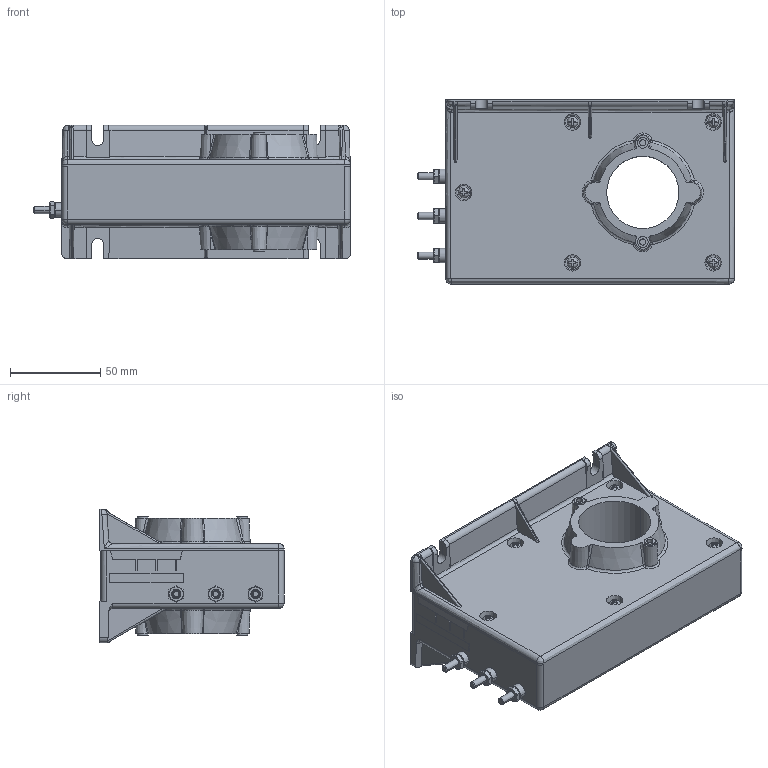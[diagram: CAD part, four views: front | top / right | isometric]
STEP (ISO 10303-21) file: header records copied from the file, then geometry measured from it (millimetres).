
FILE_DESCRIPTION(('Creo Elements/Direct Modeling STEP Export'),'2;1');
FILE_NAME('BLACKBOX_CD100-S-SP18.stp','2017-12-06T14:38:41',(''),(''),'PTC Creo Elements/Direct Modeling STEP processor for AP214 (Solid Model)','PTC Creo Elements/Direct Modeling 19.0B 21-Mar-2015 (C) Parametric Technology GmbH','');
FILE_SCHEMA(('AUTOMOTIVE_DESIGN { 1 0 10303 214 1 1 1 1 }'));
Products named in the file (2): blackbox
Assembly tree (1 placements, depth 2):
  blackbox
    blackbox
Bounding box: 175.55 x 102 x 73.99 mm (x, y, z)
Volume: 586247.8 mm3; surface area: 82084.4 mm2
Topology: 1 solids, 11 shells, 762 faces, 1936 edges, 1234 vertices
Faces by surface type: plane 421, cylinder 140, bspline 88, cone 82, torus 26, extrusion 3, sphere 2
Entity records: 46198 total; most frequent: CARTESIAN_POINT 28842, ORIENTED_EDGE 3848, DIRECTION 2861, EDGE_CURVE 1924, VERTEX_POINT 1234, VECTOR 1001, LINE 998, AXIS2_PLACEMENT_3D 930
